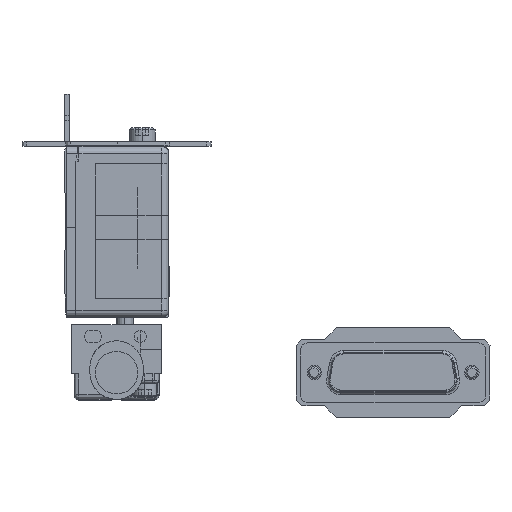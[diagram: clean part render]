
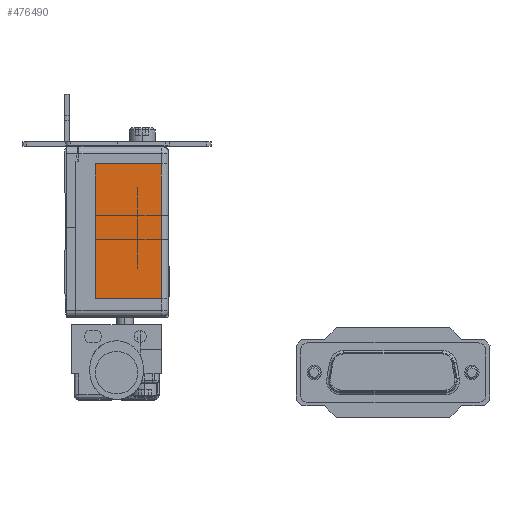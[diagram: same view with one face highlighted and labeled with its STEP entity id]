
A CAD part, left-side view. The second image highlights one B-rep face of the part: STEP entity #476490.
In plain terms, the highlighted planar face has unit normal (-1, 0, 0).
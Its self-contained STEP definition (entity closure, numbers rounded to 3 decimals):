
#476100=CARTESIAN_POINT('',(-262.7,3.267,5.907));
#476110=DIRECTION('',(-1.,0.,0.));
#476120=DIRECTION('',(0.,1.,0.));
#476130=AXIS2_PLACEMENT_3D('',#476100,#476110,#476120);
#476140=PLANE('',#476130);
#476150=CARTESIAN_POINT('',(-262.7,0.,4.
));
#476160=DIRECTION('',(0.,1.,0.));
#476170=VECTOR('',#476160,1.);
#476180=LINE('',#476150,#476170);
#476190=CARTESIAN_POINT('',(-262.7,1.5,4.));
#476200=VERTEX_POINT('',#476190);
#476210=CARTESIAN_POINT('',(-262.7,15.5,4.));
#476220=VERTEX_POINT('',#476210);
#476230=EDGE_CURVE('',#476200,#476220,#476180,.T.);
#476240=ORIENTED_EDGE('',*,*,#476230,.F.);
#476250=CARTESIAN_POINT('',(-262.7,15.5,4.));
#476260=DIRECTION('',(0.,0.,1.));
#476270=VECTOR('',#476260,1.);
#476280=LINE('',#476250,#476270);
#476290=CARTESIAN_POINT('',(-262.7,15.5,32.5));
#476300=VERTEX_POINT('',#476290);
#476310=EDGE_CURVE('',#476220,#476300,#476280,.T.);
#476320=ORIENTED_EDGE('',*,*,#476310,.F.);
#476330=CARTESIAN_POINT('',(-262.7,15.5,32.5));
#476340=DIRECTION('',(0.,-1.,0.));
#476350=VECTOR('',#476340,1.);
#476360=LINE('',#476330,#476350);
#476370=CARTESIAN_POINT('',(-262.7,1.5,32.5));
#476380=VERTEX_POINT('',#476370);
#476390=EDGE_CURVE('',#476300,#476380,#476360,.T.);
#476400=ORIENTED_EDGE('',*,*,#476390,.F.);
#476410=CARTESIAN_POINT('',(-262.7,1.5,36.5));
#476420=DIRECTION('',(0.,0.,-1.));
#476430=VECTOR('',#476420,1.);
#476440=LINE('',#476410,#476430);
#476450=EDGE_CURVE('',#476380,#476200,#476440,.T.);
#476460=ORIENTED_EDGE('',*,*,#476450,.F.);
#476470=EDGE_LOOP('',(#476460,#476400,#476320,#476240));
#476480=FACE_OUTER_BOUND('',#476470,.T.);
#476490=ADVANCED_FACE('',(#476480),#476140,.T.);
